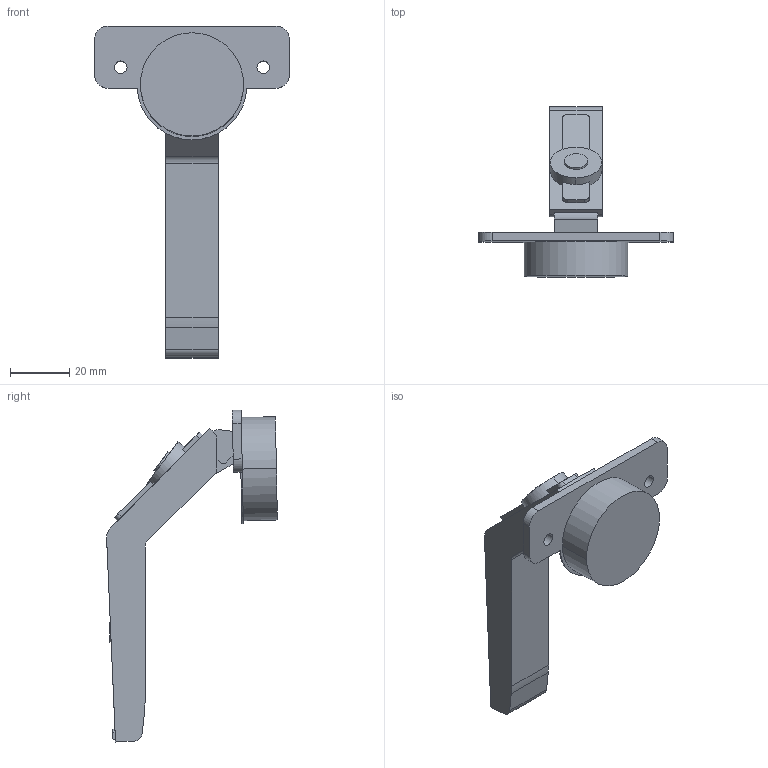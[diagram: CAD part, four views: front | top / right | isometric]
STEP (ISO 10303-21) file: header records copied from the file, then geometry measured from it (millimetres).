
FILE_DESCRIPTION (( 'STEP AP203' ), '1' );
FILE_NAME ('C82H276-DTC 3D close.STEP', '2024-09-09T06:43:03', ( '微软用户' ), ( '微软中国' ), 'SwSTEP 2.0', 'SolidWorks 2021', '' );
FILE_SCHEMA (( 'CONFIG_CONTROL_DESIGN' ));
Length unit declared in the file: millimetre
Products named in the file (1): C82H276-DTC 3D close
Bounding box: 65.6 x 57.57 x 111.91 mm (x, y, z)
Volume: 40091.7 mm3; surface area: 12651 mm2
Topology: 1 solids, 1 shells, 84 faces, 225 edges, 150 vertices
Faces by surface type: plane 48, cylinder 36
Entity records: 2724 total; most frequent: CARTESIAN_POINT 484, DIRECTION 457, ORIENTED_EDGE 450, EDGE_CURVE 225, AXIS2_PLACEMENT_3D 155, VERTEX_POINT 150, VECTOR 147, LINE 147
